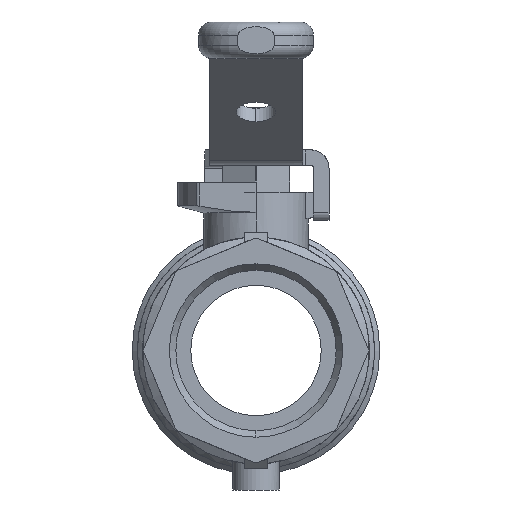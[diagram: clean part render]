
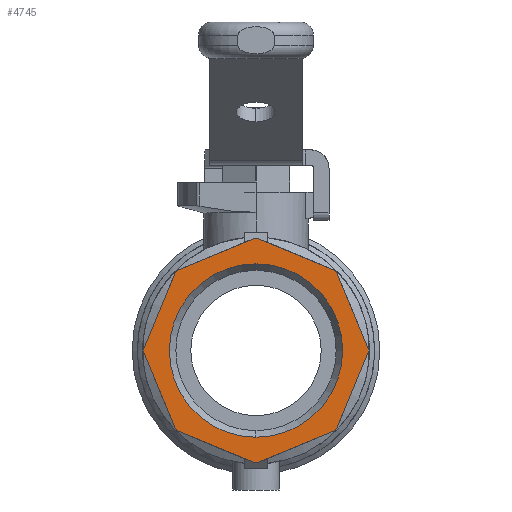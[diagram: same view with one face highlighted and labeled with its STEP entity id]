
A CAD part, left-side view. The second image highlights one B-rep face of the part: STEP entity #4745.
In plain terms, the highlighted planar face has unit normal (-1, 0, 0).
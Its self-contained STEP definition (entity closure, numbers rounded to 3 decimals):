
#864=DIRECTION('',(0.,0.924,-0.383));
#865=VECTOR('',#864,15.78);
#866=CARTESIAN_POINT('',(-40.5,-14.943,-50.919));
#867=LINE('',#866,#865);
#868=CARTESIAN_POINT('',(-40.5,0.,-35.461));
#869=DIRECTION('',(1.,0.,0.));
#870=DIRECTION('',(0.,-0.017,-1.));
#871=AXIS2_PLACEMENT_3D('',#868,#869,#870);
#873=CARTESIAN_POINT('',(-40.5,0.,-35.461));
#874=DIRECTION('',(1.,0.,0.));
#875=DIRECTION('',(0.,0.,-1.));
#876=AXIS2_PLACEMENT_3D('',#873,#874,#875);
#878=DIRECTION('',(0.,0.924,0.383));
#879=VECTOR('',#878,15.78);
#880=CARTESIAN_POINT('',(-40.5,0.364,-56.958));
#881=LINE('',#880,#879);
#882=CARTESIAN_POINT('',(-40.5,0.,-35.461));
#883=DIRECTION('',(1.,0.,0.));
#884=DIRECTION('',(0.,0.695,-0.719));
#885=AXIS2_PLACEMENT_3D('',#882,#883,#884);
#887=DIRECTION('',(0.,0.383,0.924));
#888=VECTOR('',#887,15.78);
#889=CARTESIAN_POINT('',(-40.5,15.458,-50.404));
#890=LINE('',#889,#888);
#891=CARTESIAN_POINT('',(-40.5,0.,-35.461));
#892=DIRECTION('',(1.,0.,0.));
#893=DIRECTION('',(0.,1.,-0.017));
#894=AXIS2_PLACEMENT_3D('',#891,#892,#893);
#896=DIRECTION('',(0.,-0.383,0.924));
#897=VECTOR('',#896,15.78);
#898=CARTESIAN_POINT('',(-40.5,21.497,-35.097));
#899=LINE('',#898,#897);
#900=CARTESIAN_POINT('',(-40.5,0.,-35.461));
#901=DIRECTION('',(1.,0.,0.));
#902=DIRECTION('',(0.,0.719,0.695));
#903=AXIS2_PLACEMENT_3D('',#900,#901,#902);
#905=DIRECTION('',(0.,-0.924,0.383));
#906=VECTOR('',#905,15.78);
#907=CARTESIAN_POINT('',(-40.5,14.943,-20.003));
#908=LINE('',#907,#906);
#909=CARTESIAN_POINT('',(-40.5,0.,-35.461));
#910=DIRECTION('',(1.,0.,0.));
#911=DIRECTION('',(0.,0.017,1.));
#912=AXIS2_PLACEMENT_3D('',#909,#910,#911);
#914=CARTESIAN_POINT('',(-40.5,0.,-35.461));
#915=DIRECTION('',(1.,0.,0.));
#916=DIRECTION('',(0.,0.,1.));
#917=AXIS2_PLACEMENT_3D('',#914,#915,#916);
#919=DIRECTION('',(0.,-0.924,-0.383));
#920=VECTOR('',#919,15.78);
#921=CARTESIAN_POINT('',(-40.5,-0.364,-13.964));
#922=LINE('',#921,#920);
#923=CARTESIAN_POINT('',(-40.5,0.,-35.461));
#924=DIRECTION('',(1.,0.,0.));
#925=DIRECTION('',(0.,-0.695,0.719));
#926=AXIS2_PLACEMENT_3D('',#923,#924,#925);
#928=DIRECTION('',(0.,-0.383,-0.924));
#929=VECTOR('',#928,15.78);
#930=CARTESIAN_POINT('',(-40.5,-15.458,-20.518));
#931=LINE('',#930,#929);
#932=CARTESIAN_POINT('',(-40.5,0.,-35.461));
#933=DIRECTION('',(1.,0.,0.));
#934=DIRECTION('',(0.,-1.,0.017));
#935=AXIS2_PLACEMENT_3D('',#932,#933,#934);
#937=DIRECTION('',(0.,0.383,-0.924));
#938=VECTOR('',#937,15.78);
#939=CARTESIAN_POINT('',(-40.5,-21.497,-35.825));
#940=LINE('',#939,#938);
#941=CARTESIAN_POINT('',(-40.5,0.,-35.461));
#942=DIRECTION('',(1.,0.,0.));
#943=DIRECTION('',(0.,-0.719,-0.695));
#944=AXIS2_PLACEMENT_3D('',#941,#942,#943);
#946=CARTESIAN_POINT('',(-40.5,0.,-35.461));
#947=DIRECTION('',(-1.,0.,0.));
#948=DIRECTION('',(0.,0.,1.));
#949=AXIS2_PLACEMENT_3D('',#946,#947,#948);
#951=CARTESIAN_POINT('',(-40.5,0.,-35.461));
#952=DIRECTION('',(-1.,0.,0.));
#953=DIRECTION('',(0.,0.,-1.));
#954=AXIS2_PLACEMENT_3D('',#951,#952,#953);
#3419=CARTESIAN_POINT('',(-40.5,0.,-56.961));
#3420=CARTESIAN_POINT('',(-40.5,0.364,-56.958));
#3421=VERTEX_POINT('',#3419);
#3422=VERTEX_POINT('',#3420);
#3423=CARTESIAN_POINT('',(-40.5,-0.364,-56.958));
#3424=VERTEX_POINT('',#3423);
#3425=CARTESIAN_POINT('',(-40.5,-14.943,-50.919));
#3426=VERTEX_POINT('',#3425);
#3427=CARTESIAN_POINT('',(-40.5,14.943,-50.919));
#3428=VERTEX_POINT('',#3427);
#3429=CARTESIAN_POINT('',(-40.5,15.458,-50.404));
#3430=VERTEX_POINT('',#3429);
#3431=CARTESIAN_POINT('',(-40.5,21.497,-35.825));
#3432=VERTEX_POINT('',#3431);
#3433=CARTESIAN_POINT('',(-40.5,21.497,-35.097));
#3434=VERTEX_POINT('',#3433);
#3435=CARTESIAN_POINT('',(-40.5,15.458,-20.518));
#3436=VERTEX_POINT('',#3435);
#3437=CARTESIAN_POINT('',(-40.5,14.943,-20.003));
#3438=VERTEX_POINT('',#3437);
#3439=CARTESIAN_POINT('',(-40.5,0.364,-13.964));
#3440=VERTEX_POINT('',#3439);
#3441=CARTESIAN_POINT('',(-40.5,0.,-13.961));
#3442=VERTEX_POINT('',#3441);
#3443=CARTESIAN_POINT('',(-40.5,-0.364,-13.964));
#3444=VERTEX_POINT('',#3443);
#3445=CARTESIAN_POINT('',(-40.5,-14.943,-20.003));
#3446=VERTEX_POINT('',#3445);
#3447=CARTESIAN_POINT('',(-40.5,-15.458,-20.518));
#3448=VERTEX_POINT('',#3447);
#3449=CARTESIAN_POINT('',(-40.5,-21.497,-35.097));
#3450=VERTEX_POINT('',#3449);
#3451=CARTESIAN_POINT('',(-40.5,-21.497,-35.825));
#3452=VERTEX_POINT('',#3451);
#3453=CARTESIAN_POINT('',(-40.5,-15.458,-50.404));
#3454=VERTEX_POINT('',#3453);
#3455=CARTESIAN_POINT('',(-40.5,0.,-18.837));
#3456=CARTESIAN_POINT('',(-40.5,0.,-52.086));
#3457=VERTEX_POINT('',#3455);
#3458=VERTEX_POINT('',#3456);
#4698=CARTESIAN_POINT('',(-40.5,0.,-35.461));
#4699=DIRECTION('',(1.,0.,0.));
#4700=DIRECTION('',(0.,0.,1.));
#4701=AXIS2_PLACEMENT_3D('',#4698,#4699,#4700);
#4702=PLANE('',#4701);
#4704=ORIENTED_EDGE('',*,*,#4703,.T.);
#4705=ORIENTED_EDGE('',*,*,#4680,.T.);
#4706=ORIENTED_EDGE('',*,*,#4678,.T.);
#4708=ORIENTED_EDGE('',*,*,#4707,.T.);
#4710=ORIENTED_EDGE('',*,*,#4709,.T.);
#4712=ORIENTED_EDGE('',*,*,#4711,.T.);
#4714=ORIENTED_EDGE('',*,*,#4713,.T.);
#4716=ORIENTED_EDGE('',*,*,#4715,.T.);
#4718=ORIENTED_EDGE('',*,*,#4717,.T.);
#4720=ORIENTED_EDGE('',*,*,#4719,.T.);
#4722=ORIENTED_EDGE('',*,*,#4721,.T.);
#4724=ORIENTED_EDGE('',*,*,#4723,.T.);
#4726=ORIENTED_EDGE('',*,*,#4725,.T.);
#4728=ORIENTED_EDGE('',*,*,#4727,.T.);
#4730=ORIENTED_EDGE('',*,*,#4729,.T.);
#4732=ORIENTED_EDGE('',*,*,#4731,.T.);
#4734=ORIENTED_EDGE('',*,*,#4733,.T.);
#4736=ORIENTED_EDGE('',*,*,#4735,.T.);
#4737=EDGE_LOOP('',(#4704,#4705,#4706,#4708,#4710,#4712,#4714,#4716,#4718,#4720,
#4722,#4724,#4726,#4728,#4730,#4732,#4734,#4736));
#4738=FACE_OUTER_BOUND('',#4737,.F.);
#4740=ORIENTED_EDGE('',*,*,#4739,.T.);
#4742=ORIENTED_EDGE('',*,*,#4741,.T.);
#4743=EDGE_LOOP('',(#4740,#4742));
#4744=FACE_BOUND('',#4743,.F.);
#4745=ADVANCED_FACE('',(#4738,#4744),#4702,.F.);
#872=CIRCLE('',#871,21.5);
#877=CIRCLE('',#876,21.5);
#886=CIRCLE('',#885,21.5);
#895=CIRCLE('',#894,21.5);
#904=CIRCLE('',#903,21.5);
#913=CIRCLE('',#912,21.5);
#918=CIRCLE('',#917,21.5);
#927=CIRCLE('',#926,21.5);
#936=CIRCLE('',#935,21.5);
#945=CIRCLE('',#944,21.5);
#950=CIRCLE('',#949,16.625);
#955=CIRCLE('',#954,16.625);
#4678=EDGE_CURVE('',#3421,#3422,#877,.T.);
#4680=EDGE_CURVE('',#3424,#3421,#872,.T.);
#4703=EDGE_CURVE('',#3426,#3424,#867,.T.);
#4707=EDGE_CURVE('',#3422,#3428,#881,.T.);
#4709=EDGE_CURVE('',#3428,#3430,#886,.T.);
#4711=EDGE_CURVE('',#3430,#3432,#890,.T.);
#4713=EDGE_CURVE('',#3432,#3434,#895,.T.);
#4715=EDGE_CURVE('',#3434,#3436,#899,.T.);
#4717=EDGE_CURVE('',#3436,#3438,#904,.T.);
#4719=EDGE_CURVE('',#3438,#3440,#908,.T.);
#4721=EDGE_CURVE('',#3440,#3442,#913,.T.);
#4723=EDGE_CURVE('',#3442,#3444,#918,.T.);
#4725=EDGE_CURVE('',#3444,#3446,#922,.T.);
#4727=EDGE_CURVE('',#3446,#3448,#927,.T.);
#4729=EDGE_CURVE('',#3448,#3450,#931,.T.);
#4731=EDGE_CURVE('',#3450,#3452,#936,.T.);
#4733=EDGE_CURVE('',#3452,#3454,#940,.T.);
#4735=EDGE_CURVE('',#3454,#3426,#945,.T.);
#4739=EDGE_CURVE('',#3457,#3458,#950,.T.);
#4741=EDGE_CURVE('',#3458,#3457,#955,.T.);
